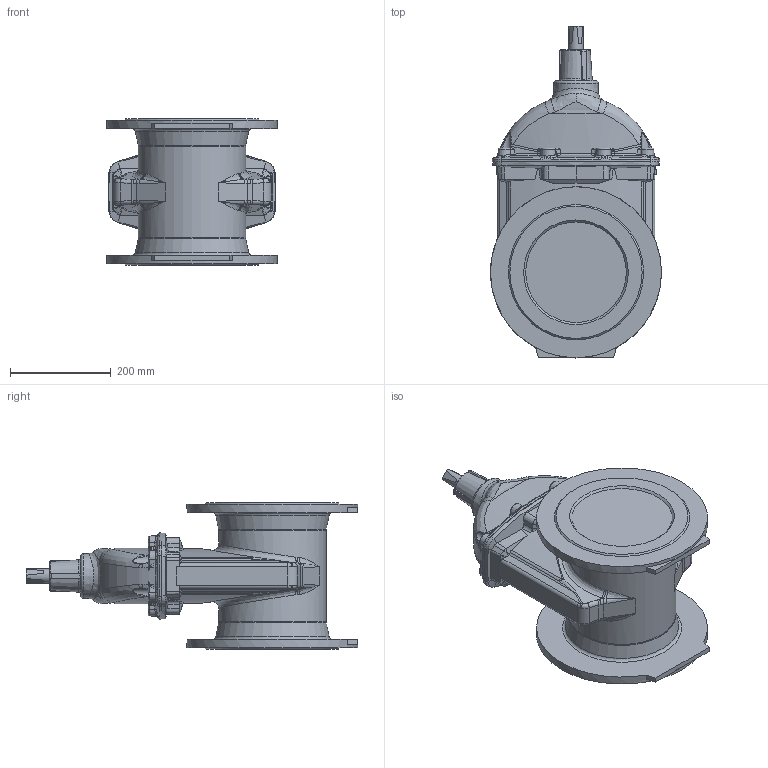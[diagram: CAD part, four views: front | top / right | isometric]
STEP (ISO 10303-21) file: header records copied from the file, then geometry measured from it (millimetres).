
FILE_DESCRIPTION (( 'STEP AP203' ), '1' );
FILE_NAME ('O_02_20_DN200_XXXXX9.STEP', '2014-07-14T07:52:44', ( '' ), ( '' ), 'SwSTEP 2.0', 'SolidWorks 2012', '' );
FILE_SCHEMA (( 'CONFIG_CONTROL_DESIGN' ));
Products named in the file (1): O_02_20_DN200_XXXXX9
Bounding box: 340 x 659.86 x 292 mm (x, y, z)
Volume: 21281566.1 mm3; surface area: 764402.1 mm2
Topology: 1 solids, 1 shells, 676 faces, 1677 edges, 1019 vertices
Faces by surface type: bspline 286, plane 177, cone 90, cylinder 73, torus 46, sphere 4
Full cylindrical faces by diameter (mm): 28 x1, 214 x1, 340 x2
Entity records: 32638 total; most frequent: CARTESIAN_POINT 19202, ORIENTED_EDGE 3278, DIRECTION 2078, EDGE_CURVE 1639, VERTEX_POINT 1009, AXIS2_PLACEMENT_3D 800, EDGE_LOOP 720, FACE_OUTER_BOUND 688
